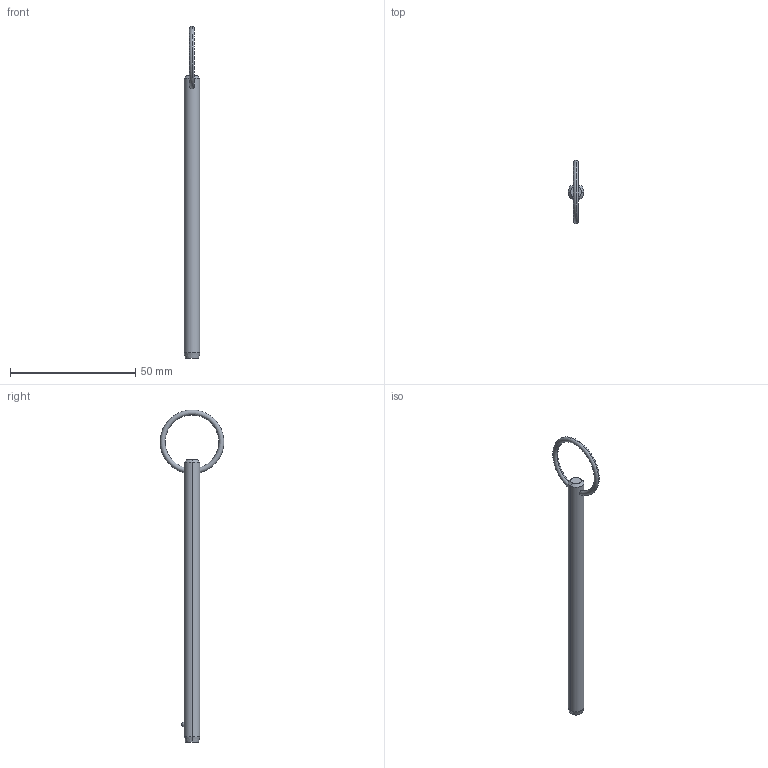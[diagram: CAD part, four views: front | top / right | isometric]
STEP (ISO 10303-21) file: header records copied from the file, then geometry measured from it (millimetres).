
FILE_DESCRIPTION (( 'STEP AP203' ), '1' );
FILE_NAME ('P1250.025-390.step', '2019-07-29T19:46:35', ( '' ), ( '' ), 'SwSTEP 2.0', 'SolidWorks 2017', '' );
FILE_SCHEMA (( 'CONFIG_CONTROL_DESIGN' ));
Length unit declared in the file: millimetre
Products named in the file (1): P1250.025-390
Bounding box: 6.35 x 25.38 x 132.42 mm (x, y, z)
Volume: 3759.6 mm3; surface area: 2703.6 mm2
Topology: 1 solids, 1 shells, 12 faces, 28 edges, 17 vertices
Faces by surface type: cone 4, torus 2, sphere 2, cylinder 2, plane 2
Entity records: 481 total; most frequent: CARTESIAN_POINT 148, DIRECTION 56, ORIENTED_EDGE 48, AXIS2_PLACEMENT_3D 25, EDGE_CURVE 24, EDGE_LOOP 15, VERTEX_POINT 15, FACE_OUTER_BOUND 12
